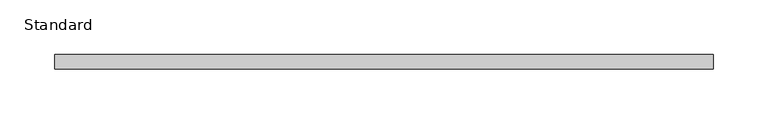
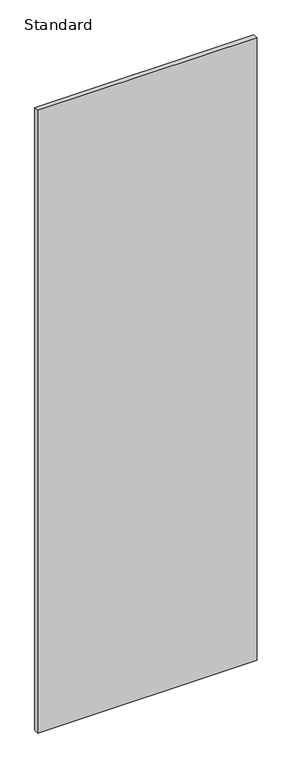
"""IFC4 building model written with IfcOpenShell, lengths in millimetres: furniture geometry, X_Partition-Compact Laminate-Duracube-Rectangular : Standard."""

from ifc_helpers import new_model, si_unit, origin, origin_with_axes, place, context, project, spatial, polyline, outline, extrude, source, transform, mapped, element, save


def standard_9bd00577(model_context):
    return source(origin(), model_context, "Body", "SweptSolid", [
        extrude(outline(polyline([(344.7003264, 0.0), (344.7003264, -13.0), (-255.2996736, -13.0), (-255.2996736, 0.0), (344.7003264, 0.0)])), origin_with_axes(), (0.0, 0.0, 1.0), 1800.0),
    ])


if __name__ == "__main__":
    model = new_model("IFC4")
    model_context = context("Model", 3, world=origin())
    ifc_project = project(units=[si_unit("LENGTHUNIT", "METRE", prefix="MILLI")], contexts=[model_context])
    site = spatial("IfcSite", under=ifc_project)
    building = spatial("IfcBuilding", under=site)
    placement = place(None, origin())
    standard_shape = standard_9bd00577(model_context)
    element("IfcFurniture", 1, ObjectType="X_Partition-Compact Laminate-Duracube-Rectangular : Standard", at=placement, inside=building, context=model_context, shape_type="MappedRepresentation", body=[
        mapped(standard_shape, transform((0.0, 0.0, 0.0), x_axis=(1.0, 0.0, 0.0), y_axis=(0.0, 1.0, 0.0), z_axis=(0.0, 0.0, 1.0))),
    ])
    save(model, "model.ifc")
